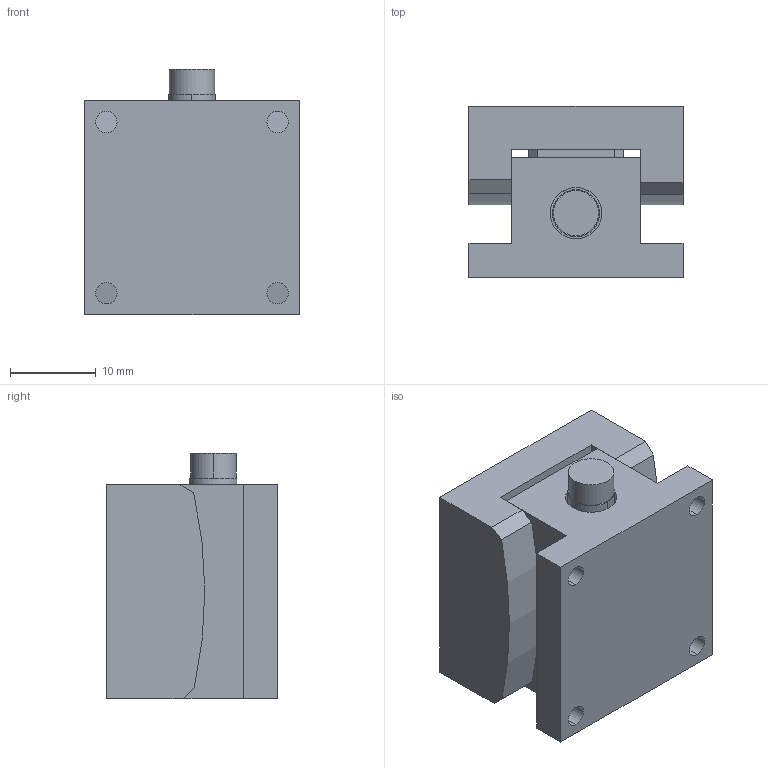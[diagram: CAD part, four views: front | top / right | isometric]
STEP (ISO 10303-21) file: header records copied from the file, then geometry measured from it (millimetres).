
FILE_DESCRIPTION (( 'STEP AP203' ), '1' );
FILE_NAME ('TS-2551FX.STEP', '2019-08-10T02:59:15', ( '' ), ( '' ), 'SwSTEP 2.0', 'SolidWorks 2016', '' );
FILE_SCHEMA (( 'CONFIG_CONTROL_DESIGN' ));
Length unit declared in the file: millimetre
Products named in the file (3): TS-2551FX-2; TS-2551FX; TS-2551FX-1
Assembly tree (2 placements, depth 2):
  TS-2551FX
    TS-2551FX-1
    TS-2551FX-2
Bounding box: 25 x 20 x 28.65 mm (x, y, z)
Volume: 9225 mm3; surface area: 6683.7 mm2
Topology: 3 solids, 3 shells, 91 faces, 222 edges, 148 vertices
Faces by surface type: plane 47, cylinder 44
Entity records: 3043 total; most frequent: DIRECTION 502, CARTESIAN_POINT 466, ORIENTED_EDGE 444, EDGE_CURVE 222, AXIS2_PLACEMENT_3D 184, VERTEX_POINT 148, VECTOR 134, LINE 134
